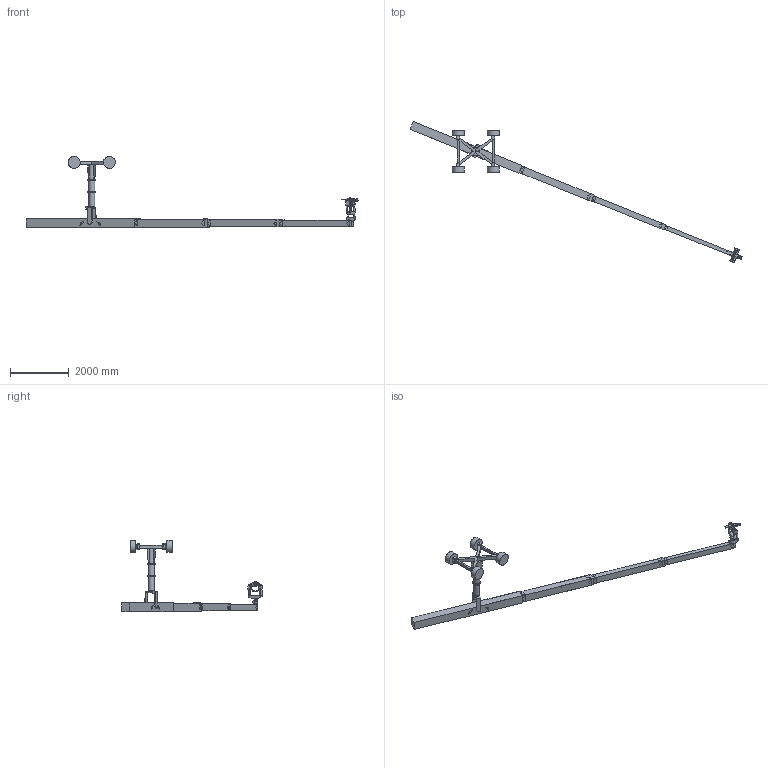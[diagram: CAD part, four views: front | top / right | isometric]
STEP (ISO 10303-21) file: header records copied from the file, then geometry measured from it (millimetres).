
FILE_DESCRIPTION(/* description */ ('03/09-50-00'),/* implementation_level */ '2;1');
FILE_NAME(/* name */ 'W:\TechnoCrane\03 SUPERTECHNO 30\Model pro Motion builder\ST30Plus Motion builder_grey.stp',/* time_stamp */ '2021-02-11T08:57:41+01:00',/* author */ ('ivana'),/* organization */ (''),/* preprocessor_version */ 'ST-DEVELOPER v18.1',/* originating_system */ 'Autodesk Inventor 2021',/* authorisation */ '');
FILE_SCHEMA (('AUTOMOTIVE_DESIGN { 1 0 10303 214 3 1 1 }'));
Length unit declared in the file: millimetre
Products named in the file (21): ST30Plus Motion builder_grey; Base+wheels; Base; Wheel; Column 1; Column 2; 1st beam; 2nd beam; 3rd beam; 4th beam; Head; Head PAN; Head ROLL; Head tube; Head TILT; Autohorizon; Fork; Kamera; Hitachi DK_Z50; Canon ovládání lens; Objektiv HJ14ex4.3
Assembly tree (27 placements, depth 3):
  ST30Plus Motion builder_grey
    Base+wheels
      Base
      Wheel  x4
    Column 1
    Column 2
    1st beam
    2nd beam
    3rd beam
    4th beam
    Head
      Head PAN
      Head ROLL
      Head TILT  x2
      Head tube  x4
    Autohorizon
    Fork
    Kamera
      Hitachi DK_Z50
      Canon ovládání lens
      Objektiv HJ14ex4.3
Bounding box: 11326.72 x 4806.54 x 2425.36 mm (x, y, z)
Volume: 1040654261 mm3; surface area: 23790529.2 mm2
Topology: 25 solids, 25 shells, 528 faces, 1199 edges, 737 vertices
Faces by surface type: plane 390, cylinder 119, cone 13, sphere 4, bspline 2
Full cylindrical faces by diameter (mm): 4.917 x2, 8.376 x2, 9.6 x3, 20 x4, 25 x4, 35 x1, 40 x5, 48 x1, 50 x1, 57 x1, 60 x1, 62 x1, 65 x1, 68 x2, 72 x1, 80 x1, 84 x1, 95 x1, 182.8 x1, 192.5 x1, 196.4 x1, 198 x2, 209 x3, 272 x2, 295 x1, 334 x1, 407 x4
Entity records: 15239 total; most frequent: CARTESIAN_POINT 2634, DIRECTION 2504, ORIENTED_EDGE 2324, EDGE_CURVE 1162, LINE 900, VECTOR 900, AXIS2_PLACEMENT_3D 802, VERTEX_POINT 717
